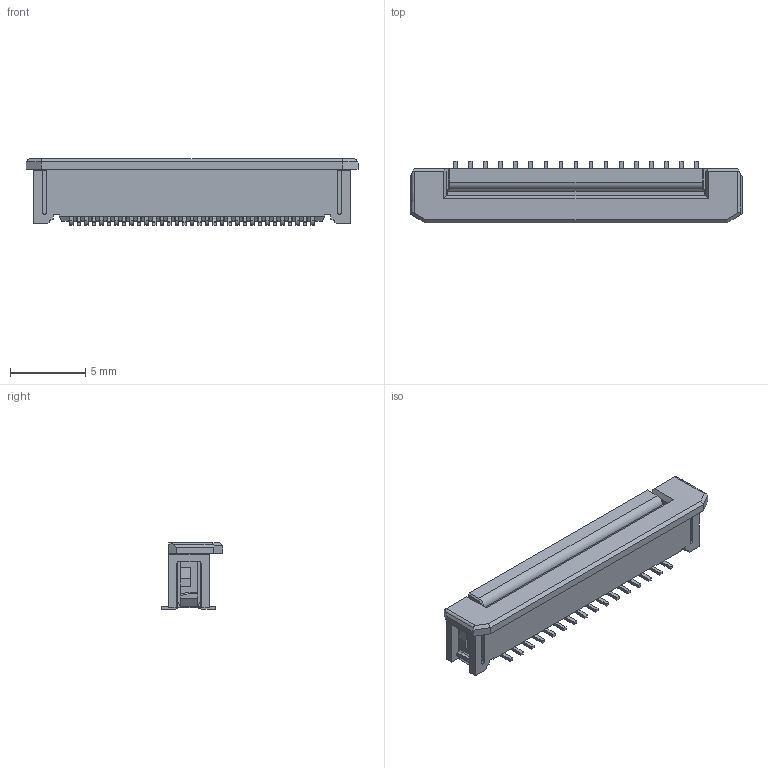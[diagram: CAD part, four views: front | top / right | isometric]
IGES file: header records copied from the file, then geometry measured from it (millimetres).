
Start section: START RECORD GO HERE.
Global section: file name: 00_6274_033_000_800_+.igs; native system: IBM CATIA IGES - CATIA Version 5 Release 14 ; preprocessor: CATIA Version 5 Release 14 ; author: Engineering Dept.; organization: KYOCERA ELCO Corporation; date: 20090316.151848; units: millimetre
Bounding box: 22 x 4.1 x 4.4 mm (x, y, z)
Surface area: 636.8 mm2 (no closed solid volume)
Topology: 0 solids, 0 shells, 894 faces, 5422 edges, 5420 vertices
Faces by surface type: plane 659, revolution 235
